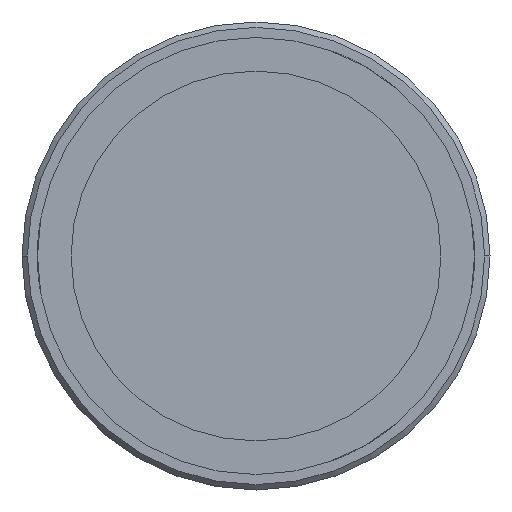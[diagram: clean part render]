
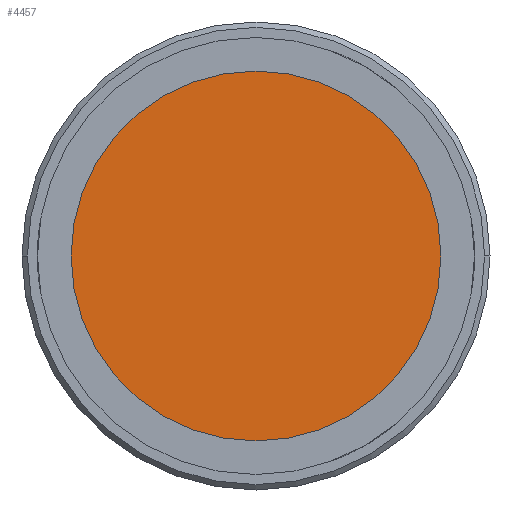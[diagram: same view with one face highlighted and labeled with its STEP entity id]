
A CAD part, left-side view. The second image highlights one B-rep face of the part: STEP entity #4457.
In plain terms, the highlighted planar face has unit normal (-1, 0, 0).
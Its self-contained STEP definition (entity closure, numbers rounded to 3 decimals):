
#56 = EDGE_CURVE ( 'NONE', #1241, #2773, #5065, .T. ) ;
#907 = EDGE_CURVE ( 'NONE', #2773, #1241, #5096, .T. ) ;
#940 = FACE_OUTER_BOUND ( 'NONE', #953, .T. ) ;
#953 = EDGE_LOOP ( 'NONE', ( #5125, #2280 ) ) ;
#1241 = VERTEX_POINT ( 'NONE', #2405 ) ;
#1484 = CARTESIAN_POINT ( 'NONE',  ( -126.526, 0., 0. ) ) ;
#2162 = DIRECTION ( 'NONE',  ( 1., 0., 0. ) ) ;
#2280 = ORIENTED_EDGE ( 'NONE', *, *, #56, .F. ) ;
#2347 = CARTESIAN_POINT ( 'NONE',  ( -126.526, 17.462, 0. ) ) ;
#2401 = DIRECTION ( 'NONE',  ( -1., 0., 0. ) ) ;
#2405 = CARTESIAN_POINT ( 'NONE',  ( -126.526, -17.463, 0. ) ) ;
#2454 = AXIS2_PLACEMENT_3D ( 'NONE', #4740, #2401, #5119 ) ;
#2773 = VERTEX_POINT ( 'NONE', #2347 ) ;
#3237 = AXIS2_PLACEMENT_3D ( 'NONE', #4533, #2162, #4916 ) ;
#3462 = DIRECTION ( 'NONE',  ( 1., 0., 0. ) ) ;
#3629 = DIRECTION ( 'NONE',  ( 0., 1., 0. ) ) ;
#3646 = AXIS2_PLACEMENT_3D ( 'NONE', #1484, #3462, #3629 ) ;
#4457 = ADVANCED_FACE ( 'NONE', ( #940 ), #4728, .T. ) ;
#4533 = CARTESIAN_POINT ( 'NONE',  ( -126.526, 0., 0. ) ) ;
#4728 = PLANE ( 'NONE',  #2454 ) ;
#4740 = CARTESIAN_POINT ( 'NONE',  ( -126.526, 0., 0. ) ) ;
#4916 = DIRECTION ( 'NONE',  ( 0., 1., 0. ) ) ;
#5065 = CIRCLE ( 'NONE', #3646, 17.462 ) ;
#5096 = CIRCLE ( 'NONE', #3237, 17.462 ) ;
#5119 = DIRECTION ( 'NONE',  ( 0., -1., 0. ) ) ;
#5125 = ORIENTED_EDGE ( 'NONE', *, *, #907, .F. ) ;
